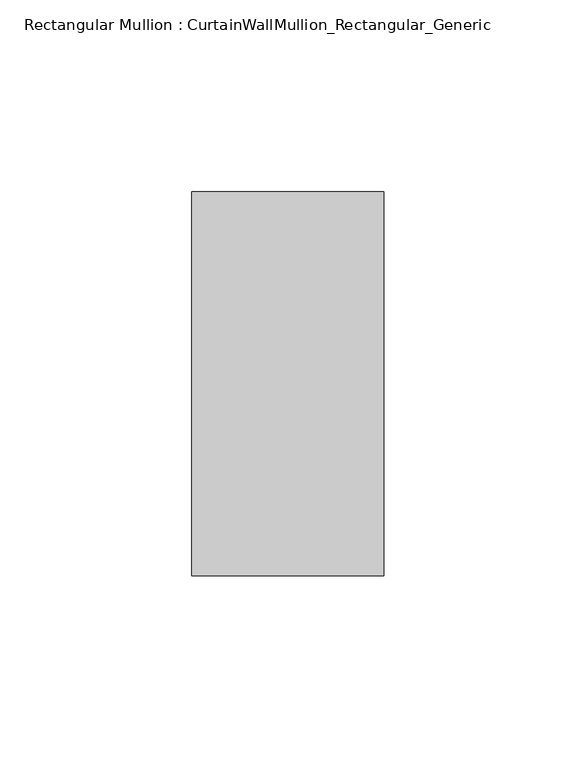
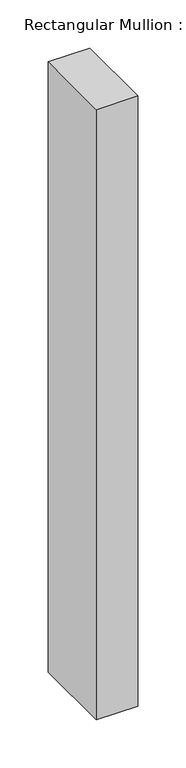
"""IFC4 building model written with IfcOpenShell, lengths in millimetres: member geometry, Rectangular Mullion : CurtainWallMullion_Rectangular_Generic."""

from ifc_helpers import new_model, si_unit, frame, origin, place, context, project, spatial, polyline, outline, extrude, source, transform, mapped, element, save


def rectangular_mullion_curtainwallmullion_rectangular_generic_85ff6675(model_context):
    return source(origin(), model_context, "Body", "SweptSolid", [
        extrude(outline(polyline([(25.0, 50.0), (25.0, -50.0), (-25.0, -50.0), (-25.0, 50.0), (25.0, 50.0)])), frame((0.0, 0.0, -775.0), z_axis=(0.0, 0.0, 1.0), x_axis=(1.0, 0.0, 0.0)), (0.0, 0.0, 1.0), 775.0),
    ])


if __name__ == "__main__":
    model = new_model("IFC4")
    model_context = context("Model", 3, world=origin())
    ifc_project = project(units=[si_unit("LENGTHUNIT", "METRE", prefix="MILLI")], contexts=[model_context])
    site = spatial("IfcSite", under=ifc_project)
    building = spatial("IfcBuilding", under=site)
    placement = place(None, origin())
    rectangular_mullion_curtainwallmullion_rectangular_generic_shape = rectangular_mullion_curtainwallmullion_rectangular_generic_85ff6675(model_context)
    element("IfcMember", 1, ObjectType="Rectangular Mullion : CurtainWallMullion_Rectangular_Generic", at=placement, inside=building, context=model_context, shape_type="MappedRepresentation", body=[
        mapped(rectangular_mullion_curtainwallmullion_rectangular_generic_shape, transform((0.0, 0.0, 0.0), x_axis=(1.0, 0.0, 0.0), y_axis=(0.0, 1.0, 0.0), z_axis=(0.0, 0.0, 1.0))),
    ])
    save(model, "model.ifc")
